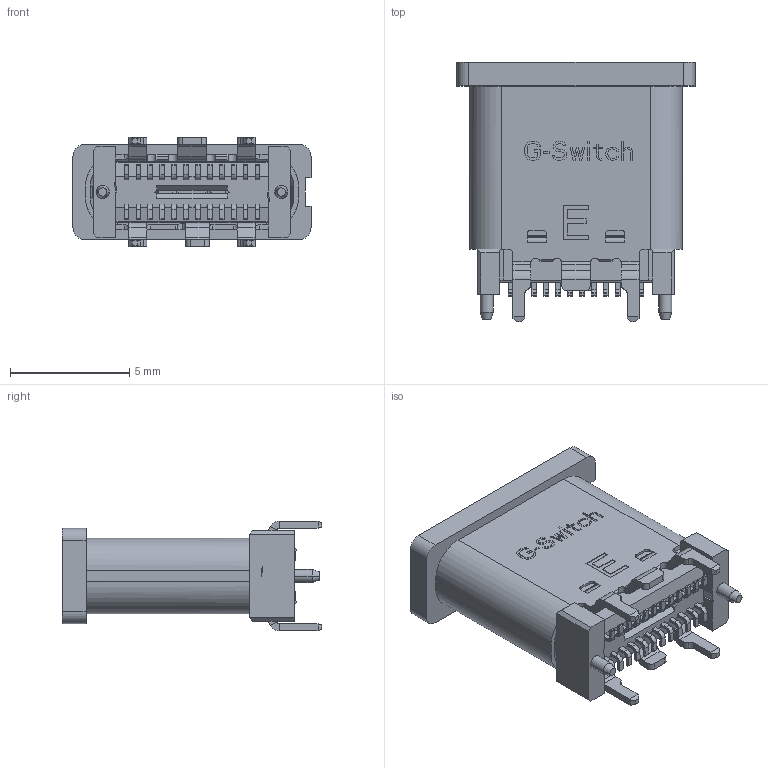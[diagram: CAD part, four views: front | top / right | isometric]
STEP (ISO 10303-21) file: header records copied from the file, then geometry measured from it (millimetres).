
FILE_DESCRIPTION((''),'2;1');
FILE_NAME('GT-USB-7019A_ASM','2023-05-05T',('WYH'),(''),'PRO/ENGINEER BY PARAMETRIC TECHNOLOGY CORPORATION, 2013040','PRO/ENGINEER BY PARAMETRIC TECHNOLOGY CORPORATION, 2013040','');
FILE_SCHEMA(('CONFIG_CONTROL_DESIGN'));
Length unit declared in the file: millimetre
Products named in the file (4): SHELL_8_8_E_12_2_AF0; COVER__34_1_AF0; TYPEC_H10_40_ASM_52_ASM_3_AF0_ASM; GT-USB-7019A_ASM
Assembly tree (3 placements, depth 3):
  GT-USB-7019A_ASM
    TYPEC_H10_40_ASM_52_ASM_3_AF0_ASM
      SHELL_8_8_E_12_2_AF0
      COVER__34_1_AF0
Bounding box: 10 x 10.9 x 4.6 mm (x, y, z)
Volume: 212 mm3; surface area: 811.2 mm2
Topology: 2 solids, 60 shells, 2119 faces, 5739 edges, 3746 vertices
Faces by surface type: plane 1723, cylinder 311, cone 55, extrusion 16, bspline 14
Entity records: 66609 total; most frequent: CARTESIAN_POINT 13411, ORIENTED_EDGE 11238, DIRECTION 10340, EDGE_CURVE 5739, VECTOR 4830, LINE 4814, VERTEX_POINT 3746, AXIS2_PLACEMENT_3D 2755
